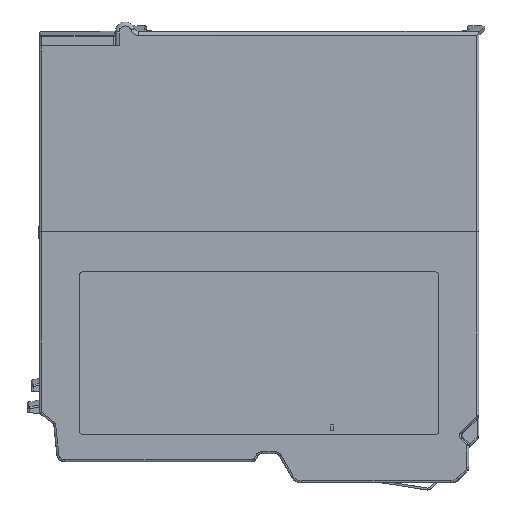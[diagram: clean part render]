
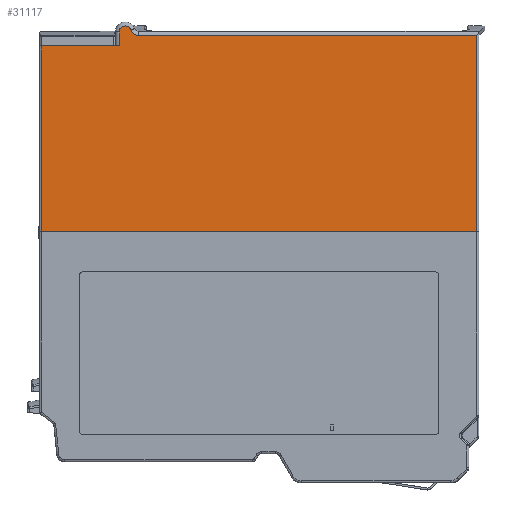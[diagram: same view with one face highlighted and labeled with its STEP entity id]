
A CAD part, left-side view. The second image highlights one B-rep face of the part: STEP entity #31117.
In plain terms, the highlighted planar face has unit normal (-1, 0, 0).
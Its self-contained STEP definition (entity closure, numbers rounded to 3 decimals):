
#743 = EDGE_CURVE ( 'NONE', #5794, #5796, #11366, .T. ) ;
#777 = EDGE_CURVE ( 'NONE', #5123, #5462, #2663, .T. ) ;
#1261 = EDGE_CURVE ( 'NONE', #41953, #4454, #54923, .T. ) ;
#1266 = EDGE_CURVE ( 'NONE', #4454, #5114, #54951, .T. ) ;
#1291 = EDGE_CURVE ( 'NONE', #5794, #41953, #55017, .T. ) ;
#1510 = EDGE_CURVE ( 'NONE', #5462, #5358, #87292, .T. ) ;
#1543 = EDGE_CURVE ( 'NONE', #5358, #5796, #55989, .T. ) ;
#1559 = EDGE_CURVE ( 'NONE', #5114, #5123, #68932, .T. ) ;
#2663 = B_SPLINE_CURVE_WITH_KNOTS ( 'NONE', 3,
 ( #11562, #11561, #11563, #11566, #11567, #11569, #11572, #11574 ),
 .UNSPECIFIED., .F., .F.,
 ( 4, 2, 2, 4 ),
 ( 0., 0.001, 0.001, 0.002 ),
 .UNSPECIFIED. ) ;
#4454 = VERTEX_POINT ( 'NONE', #119054 ) ;
#5114 = VERTEX_POINT ( 'NONE', #119462 ) ;
#5123 = VERTEX_POINT ( 'NONE', #119467 ) ;
#5358 = VERTEX_POINT ( 'NONE', #119596 ) ;
#5462 = VERTEX_POINT ( 'NONE', #119662 ) ;
#5794 = VERTEX_POINT ( 'NONE', #119845 ) ;
#5796 = VERTEX_POINT ( 'NONE', #119846 ) ;
#11366 = LINE ( 'NONE', #11395, #87499 ) ;
#11395 = CARTESIAN_POINT ( 'NONE',  ( -5.238, 64.217, 3.3 ) ) ;
#11401 = DIRECTION ( 'NONE',  ( 0., -1., 0. ) ) ;
#11561 = CARTESIAN_POINT ( 'NONE',  ( -5.238, 39.615, 5.966 ) ) ;
#11562 = CARTESIAN_POINT ( 'NONE',  ( -5.238, 39.407, 5.966 ) ) ;
#11563 = CARTESIAN_POINT ( 'NONE',  ( -5.238, 39.818, 5.998 ) ) ;
#11566 = CARTESIAN_POINT ( 'NONE',  ( -5.238, 40.214, 6.125 ) ) ;
#11567 = CARTESIAN_POINT ( 'NONE',  ( -5.238, 40.399, 6.219 ) ) ;
#11569 = CARTESIAN_POINT ( 'NONE',  ( -5.238, 40.905, 6.578 ) ) ;
#11572 = CARTESIAN_POINT ( 'NONE',  ( -5.238, 41.165, 6.921 ) ) ;
#11574 = CARTESIAN_POINT ( 'NONE',  ( -5.238, 41.307, 7.312 ) ) ;
#31117 = ADVANCED_FACE ( 'NONE', ( #66620 ), #66606, .F. ) ;
#41953 = VERTEX_POINT ( 'NONE', #126506 ) ;
#54923 = LINE ( 'NONE', #54945, #86627 ) ;
#54945 = CARTESIAN_POINT ( 'NONE',  ( -5.238, -45.783, -43.2 ) ) ;
#54947 = DIRECTION ( 'NONE',  ( 0., -1., 0. ) ) ;
#54951 = LINE ( 'NONE', #54952, #87181 ) ;
#54952 = CARTESIAN_POINT ( 'NONE',  ( -5.238, -45.283, 6.8 ) ) ;
#54960 = DIRECTION ( 'NONE',  ( 0., 0., 1. ) ) ;
#55017 = LINE ( 'NONE', #55019, #87064 ) ;
#55019 = CARTESIAN_POINT ( 'NONE',  ( -5.238, 63.717, 6.8 ) ) ;
#55025 = DIRECTION ( 'NONE',  ( 0., 0., -1. ) ) ;
#55770 = CARTESIAN_POINT ( 'NONE',  ( -5.238, 42.717, 6.8 ) ) ;
#55772 = DIRECTION ( 'NONE',  ( -1., 0., 0. ) ) ;
#55775 = DIRECTION ( 'NONE',  ( 0., 0., -1. ) ) ;
#55989 = LINE ( 'NONE', #55991, #86718 ) ;
#55991 = CARTESIAN_POINT ( 'NONE',  ( -5.238, 44.217, 6.8 ) ) ;
#56012 = DIRECTION ( 'NONE',  ( 0., 0., -1. ) ) ;
#66606 = PLANE ( 'NONE',  #70638 ) ;
#66620 = FACE_OUTER_BOUND ( 'NONE', #133817, .T. ) ;
#66630 = CARTESIAN_POINT ( 'NONE',  ( -5.238, -45.783, 6.8 ) ) ;
#66631 = DIRECTION ( 'NONE',  ( 1., 0., 0. ) ) ;
#66632 = DIRECTION ( 'NONE',  ( 0., 0., -1. ) ) ;
#68932 = LINE ( 'NONE', #68950, #87261 ) ;
#68950 = CARTESIAN_POINT ( 'NONE',  ( -5.238, 500009.217, 5.966 ) ) ;
#68952 = DIRECTION ( 'NONE',  ( 0., 1., 0. ) ) ;
#70638 = AXIS2_PLACEMENT_3D ( 'NONE', #66630, #66631, #66632 ) ;
#86627 = VECTOR ( 'NONE', #54947, 1000. ) ;
#86718 = VECTOR ( 'NONE', #56012, 1000. ) ;
#87064 = VECTOR ( 'NONE', #55025, 1000. ) ;
#87072 = AXIS2_PLACEMENT_3D ( 'NONE', #55770, #55772, #55775 ) ;
#87181 = VECTOR ( 'NONE', #54960, 1000. ) ;
#87261 = VECTOR ( 'NONE', #68952, 1000. ) ;
#87292 = CIRCLE ( 'NONE', #87072, 1.5 ) ;
#87499 = VECTOR ( 'NONE', #11401, 1000. ) ;
#101485 = ORIENTED_EDGE ( 'NONE', *, *, #777, .T. ) ;
#102097 = ORIENTED_EDGE ( 'NONE', *, *, #1291, .T. ) ;
#102116 = ORIENTED_EDGE ( 'NONE', *, *, #1510, .T. ) ;
#102158 = ORIENTED_EDGE ( 'NONE', *, *, #1543, .T. ) ;
#102169 = ORIENTED_EDGE ( 'NONE', *, *, #1261, .T. ) ;
#102238 = ORIENTED_EDGE ( 'NONE', *, *, #743, .F. ) ;
#102241 = ORIENTED_EDGE ( 'NONE', *, *, #1559, .T. ) ;
#102269 = ORIENTED_EDGE ( 'NONE', *, *, #1266, .T. ) ;
#119054 = CARTESIAN_POINT ( 'NONE',  ( -5.238, -45.283, -43.2 ) ) ;
#119462 = CARTESIAN_POINT ( 'NONE',  ( -5.238, -45.283, 5.966 ) ) ;
#119467 = CARTESIAN_POINT ( 'NONE',  ( -5.238, 39.407, 5.966 ) ) ;
#119596 = CARTESIAN_POINT ( 'NONE',  ( -5.238, 44.217, 6.8 ) ) ;
#119662 = CARTESIAN_POINT ( 'NONE',  ( -5.238, 41.307, 7.312 ) ) ;
#119845 = CARTESIAN_POINT ( 'NONE',  ( -5.238, 63.717, 3.3 ) ) ;
#119846 = CARTESIAN_POINT ( 'NONE',  ( -5.238, 44.217, 3.3 ) ) ;
#126506 = CARTESIAN_POINT ( 'NONE',  ( -5.238, 63.717, -43.2 ) ) ;
#133817 = EDGE_LOOP ( 'NONE', ( #102269, #102241, #101485, #102116, #102158, #102238, #102097, #102169 ) ) ;
